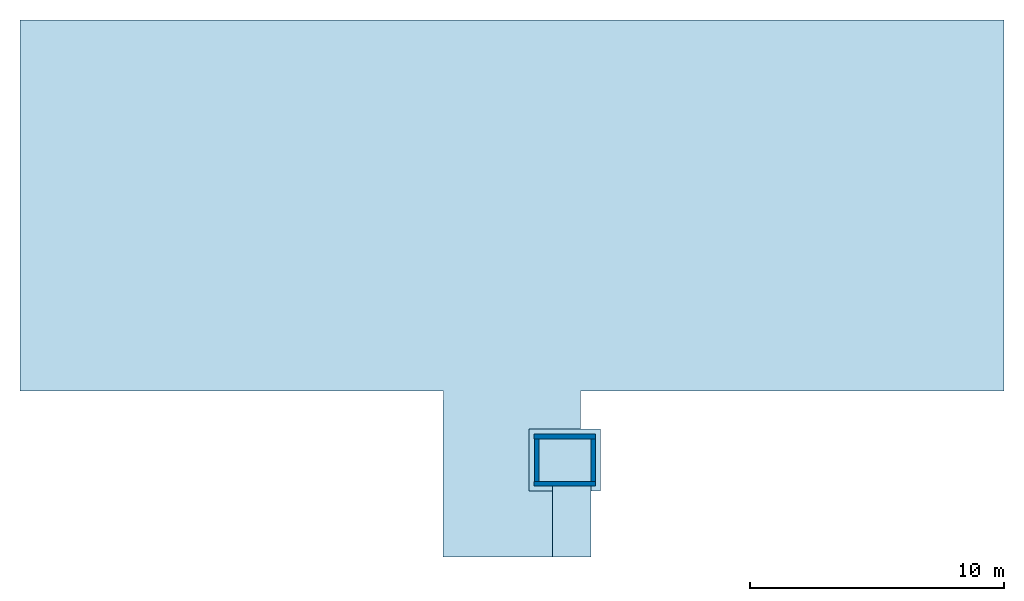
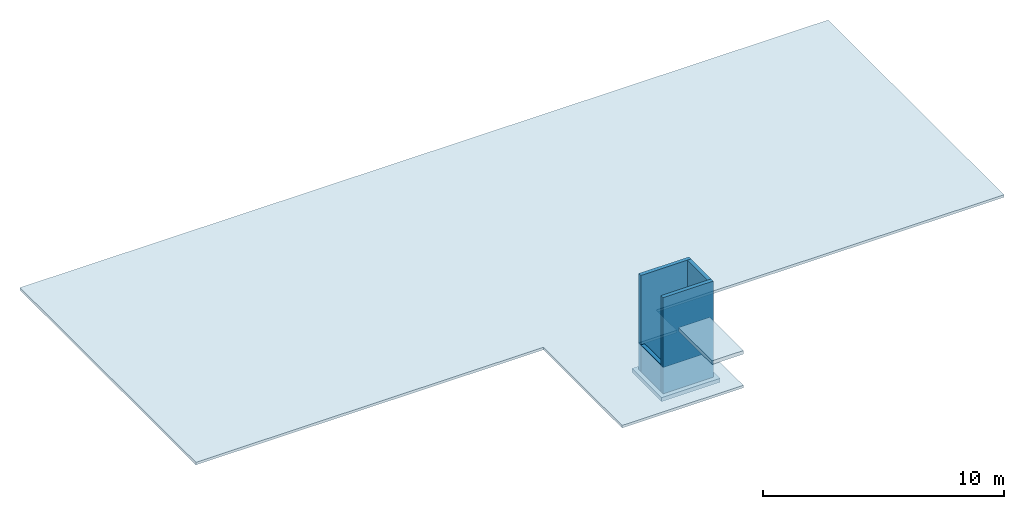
# One storey: 4 walls, 3 slabs.
"""IFC2X3 building model written with IfcOpenShell, lengths in metres."""

from ifc_helpers import new_model, entity, si_unit, converted_unit, derived_unit, direction, frame, frame_2d, origin, origin_2d_with_axis, place, context, subcontext, project, spatial, polyline, rectangle, outline, extrude, material, layer, layer_set, layer_usage, type_object, element, save


model = new_model("IFC2X3")

# Units and contexts
model_context = context("Model", 3, precision=1e-05, world=origin(), true_north=direction((6.12303176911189e-17, 1.0)))
context_of_model = context(None, 3, precision=1e-05, world=origin(), true_north=direction((6.12303176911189e-17, 1.0)))
body_context = subcontext(model_context, "Body", "Model", "MODEL_VIEW")
ifc_project = project(units=[si_unit("LENGTHUNIT", "METRE"), si_unit("AREAUNIT", "SQUARE_METRE"), si_unit("VOLUMEUNIT", "CUBIC_METRE"), converted_unit("PLANEANGLEUNIT", "DEGREE", entity("IfcRatioMeasure", 0.0174532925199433), si_unit("PLANEANGLEUNIT", "RADIAN"), dimensions=[0, 0, 0, 0, 0, 0, 0]), si_unit("MASSUNIT", "GRAM", prefix="KILO"), si_unit("TIMEUNIT", "SECOND"), si_unit("FREQUENCYUNIT", "HERTZ"), si_unit("THERMODYNAMICTEMPERATUREUNIT", "DEGREE_CELSIUS"), derived_unit("THERMALTRANSMITTANCEUNIT", [(si_unit("MASSUNIT", "GRAM", prefix="KILO"), 1), (si_unit("THERMODYNAMICTEMPERATUREUNIT", "KELVIN"), -1), (si_unit("TIMEUNIT", "SECOND"), -3)]), derived_unit("VOLUMETRICFLOWRATEUNIT", [(si_unit("LENGTHUNIT", "METRE"), 3), (si_unit("TIMEUNIT", "SECOND"), -1)]), si_unit("ELECTRICCURRENTUNIT", "AMPERE"), si_unit("ELECTRICVOLTAGEUNIT", "VOLT"), si_unit("POWERUNIT", "WATT"), si_unit("FORCEUNIT", "NEWTON"), si_unit("ILLUMINANCEUNIT", "LUX"), si_unit("LUMINOUSFLUXUNIT", "LUMEN"), si_unit("LUMINOUSINTENSITYUNIT", "CANDELA"), si_unit("PRESSUREUNIT", "PASCAL")], contexts=[model_context, context_of_model])

# Site, building, storey
site_placement = place(None, origin())
site = spatial("IfcSite", under=ifc_project, at=site_placement, Name="Default", CompositionType="ELEMENT")
building_placement = place(site_placement, origin())
building = spatial("IfcBuilding", under=site, at=building_placement, Name="BATIMENT 1", CompositionType="ELEMENT")
storey_placement = place(building_placement, origin())
storey = spatial("IfcBuildingStorey", under=building, at=storey_placement, Name="RdC", CompositionType="ELEMENT", Elevation=0.0)

# Slabs
ifc_material_1 = material(Name="AEC Béton, C25/30")
ifc_layer_1 = layer(ifc_material_1, 0.18)
ifc_layer_set_1 = layer_set([ifc_layer_1], Name="Sol:BG DALLE BA 0.18 C25/30")
ifc_layer_usage_1 = layer_usage(ifc_layer_set_1, "AXIS3", "POSITIVE", 0.0)
slab_1_placement = place(storey_placement, origin())
element("IfcSlab", 1, at=slab_1_placement, inside=storey, material=ifc_layer_usage_1, Name="Sol:BG DALLE BA 0.18 C25/30", ObjectType="Sol:BG DALLE BA 0.18 C25/30", PredefinedType="FLOOR", context=body_context, shape_type="SweptSolid", body=[
    extrude(rectangle(XDim=2.8, YDim=1.5, at=frame_2d((-1.11022302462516e-15, 1.66533453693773e-16), x_axis=(1.0, 0.0))), frame((2.14634696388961, -11.3474623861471, 1.76), z_axis=(0.0, 0.0, -1.0), x_axis=(0.0, 1.0, 0.0)), (0.0, 0.0, 1.0), 0.18),
])
ifc_material_2 = material(Name="BETON C25/30")
ifc_layer_2 = layer(ifc_material_2, 0.2)
ifc_layer_set_2 = layer_set([ifc_layer_2], Name="Radier:BG 2.80 x 2.45 x 0.20")
ifc_layer_usage_2 = layer_usage(ifc_layer_set_2, "AXIS3", "POSITIVE", 0.0)
slab_2_placement = place(storey_placement, origin())
element("IfcSlab", 2, at=slab_2_placement, inside=storey, material=ifc_layer_usage_2, Name="Radier:BG 2.80 x 2.45 x 0.20", ObjectType="Radier:BG 2.80 x 2.45 x 0.20", PredefinedType="BASESLAB", context=body_context, shape_type="SweptSolid", body=[
    extrude(rectangle(XDim=2.45, YDim=2.8, at=origin_2d_with_axis()), frame((1.87134696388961, -8.93246238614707, -1.35), z_axis=(0.0, 0.0, -1.0), x_axis=(0.0, 1.0, 0.0)), (0.0, 0.0, 1.0), 0.2),
])
ifc_layer_3 = layer(ifc_material_1, 0.13)
ifc_layer_set_3 = layer_set([ifc_layer_3], Name="Sol:BG DALLAGE BA 0.13 C25/30")
ifc_layer_usage_3 = layer_usage(ifc_layer_set_3, "AXIS3", "POSITIVE", 0.0)
slab_3_placement = place(storey_placement, origin())
element("IfcSlab", 3, at=slab_3_placement, inside=storey, material=ifc_layer_usage_3, Name="Sol:BG DALLAGE BA 0.13 C25/30", ObjectType="Sol:BG DALLAGE BA 0.13 C25/30", PredefinedType="FLOOR", context=body_context, shape_type="SweptSolid", body=[
    extrude(outline(polyline([(-0.327142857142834, -19.5407142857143), (14.2728571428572, -19.5407142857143), (14.2728571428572, 19.1792857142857), (-0.327142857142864, 19.1792857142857), (-0.327142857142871, 2.51928571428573), (-2.02714285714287, 2.51928571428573), (-2.02714285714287, 0.694285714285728), (-4.05714285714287, 0.694285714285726), (-4.05714285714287, 2.91928571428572), (-6.85714285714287, 2.91928571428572), (-6.85714285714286, -2.89071428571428), (-0.677142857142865, -2.89071428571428), (-0.677142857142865, -2.88071428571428), (-0.327142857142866, -2.88071428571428), (-0.327142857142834, -19.5407142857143)])), frame((-0.0229387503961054, -5.89031952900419, 0.0), z_axis=(0.0, 0.0, -1.0), x_axis=(0.0, 1.0, 0.0)), (0.0, 0.0, 1.0), 0.13),
])

# Walls
ifc_layer_4 = layer(ifc_material_1, 0.18)
ifc_layer_set_4 = layer_set([ifc_layer_4], Name="Mur de base:BG VOILE BA 0.18 C25/30")
ifc_layer_usage_4 = layer_usage(ifc_layer_set_4, "AXIS2", "NEGATIVE", 0.09)
wall_type = type_object("IfcWallType", Name="Mur de base:BG VOILE BA 0.18 C25/30", PredefinedType="STANDARD", material=ifc_layer_set_4)
wall_1_placement = place(storey_placement, frame((0.671346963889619, -8.00746238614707, -1.35)))
element("IfcWallStandardCase", 4, at=wall_1_placement, inside=storey, type_object=wall_type, material=ifc_layer_usage_4, Name="Mur de base:BG VOILE BA 0.18 C25/30", ObjectType="Mur de base:BG VOILE BA 0.18 C25/30", context=body_context, shape_type="SweptSolid", body=[
    extrude(rectangle(XDim=2.40499999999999, YDim=0.18, at=frame_2d((1.2025, 9.0205620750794e-17), x_axis=(-1.0, 0.0))), origin(), (0.0, 0.0, 1.0), 4.87),
])
ifc_layer_usage_5 = layer_usage(ifc_layer_set_4, "AXIS2", "NEGATIVE", 0.09)
wall_2_placement = place(storey_placement, frame((2.98634696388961, -8.09746238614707, -1.35), z_axis=(0.0, 0.0, 1.0), x_axis=(0.0, -1.0, 0.0)))
element("IfcWallStandardCase", 5, at=wall_2_placement, inside=storey, type_object=wall_type, material=ifc_layer_usage_5, Name="Mur de base:BG VOILE BA 0.18 C25/30", ObjectType="Mur de base:BG VOILE BA 0.18 C25/30", context=body_context, shape_type="SweptSolid", body=[
    extrude(rectangle(XDim=1.67, YDim=0.18, at=frame_2d((0.835, -4.85722573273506e-17), x_axis=(-1.0, 0.0))), origin(), (0.0, 0.0, 1.0), 4.87),
])
ifc_layer_usage_6 = layer_usage(ifc_layer_set_4, "AXIS2", "NEGATIVE", 0.09)
wall_3_placement = place(storey_placement, frame((3.07634696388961, -9.85746238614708, -1.35), z_axis=(0.0, 0.0, 1.0), x_axis=(-1.0, 0.0, 0.0)))
element("IfcWallStandardCase", 6, at=wall_3_placement, inside=storey, type_object=wall_type, material=ifc_layer_usage_6, Name="Mur de base:BG VOILE BA 0.18 C25/30", ObjectType="Mur de base:BG VOILE BA 0.18 C25/30", context=body_context, shape_type="SweptSolid", body=[
    extrude(rectangle(XDim=2.405, YDim=0.179999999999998, at=frame_2d((1.2025, 6.66133814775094e-16), x_axis=(-1.0, 0.0))), origin(), (0.0, 0.0, 1.0), 4.87),
])
ifc_layer_usage_7 = layer_usage(ifc_layer_set_4, "AXIS2", "NEGATIVE", 0.09)
wall_4_placement = place(storey_placement, frame((0.76634696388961, -9.76746238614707, -1.35), z_axis=(0.0, 0.0, 1.0), x_axis=(0.0, 1.0, 0.0)))
element("IfcWallStandardCase", 7, at=wall_4_placement, inside=storey, type_object=wall_type, material=ifc_layer_usage_7, Name="Mur de base:BG VOILE BA 0.18 C25/30", ObjectType="Mur de base:BG VOILE BA 0.18 C25/30", context=body_context, shape_type="SweptSolid", body=[
    extrude(rectangle(XDim=1.67, YDim=0.18, at=frame_2d((0.835, 0.0), x_axis=(-1.0, 0.0))), origin(), (0.0, 0.0, 1.0), 1.35),
])

save(model, "model.ifc")
